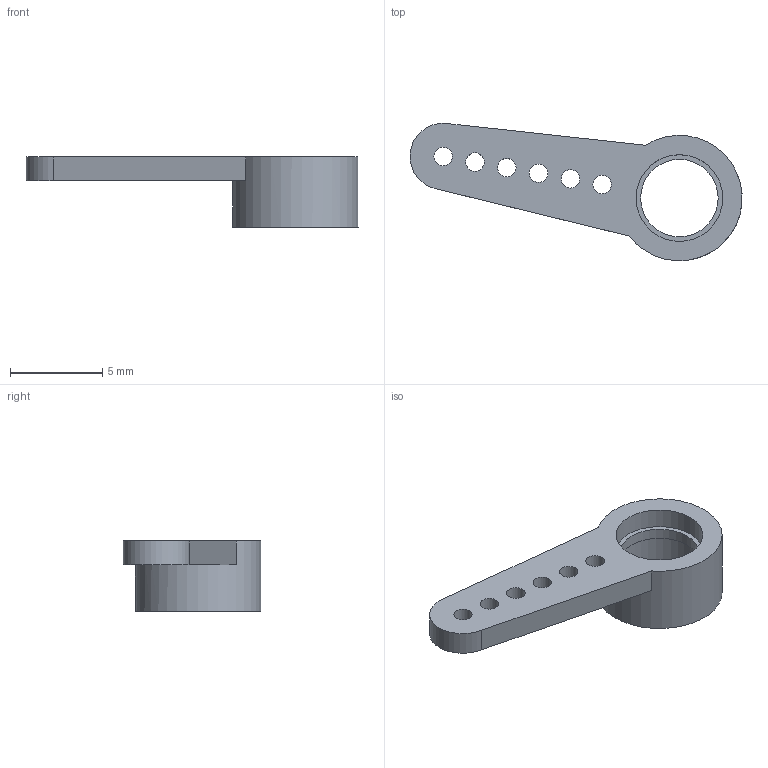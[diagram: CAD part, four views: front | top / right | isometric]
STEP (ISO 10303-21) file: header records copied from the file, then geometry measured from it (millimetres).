
FILE_DESCRIPTION(/* description */ ('STEP AP242 Edition 2','CAx-IF Rec.Pracs.---Representation and Presentation of Product Manufacturing Information (PMI)---4.0---2014-10-13','CAx-IF Rec.Pracs.---3D Tessellated Geometry---0.4---2014-09-14','2;1','CAx-IF Rec.Pracs.---User Defined Attributes---1.5---2016-08-15'),/* implementation_level */ '2;1');
FILE_NAME(/* name */ 'Final Build - SERVO horn',/* time_stamp */ '2026-08-31T23:26:27Z',/* author */ (''),/* organization */ (''),/* preprocessor_version */ 'ST-DEVELOPER v20',/* originating_system */ 'ONSHAPE BY PTC INC, 1.220',/* authorisation */ ' ');
FILE_SCHEMA (('AP242_MANAGED_MODEL_BASED_3D_ENGINEERING_MIM_LF { 1 0 10303 442 3 1 4 }'));
Length unit declared in the file: metre
Products named in the file (1): SERVO horn
Bounding box: 17.99 x 7.45 x 3.8 mm (x, y, z)
Volume: 129.5 mm3; surface area: 318.9 mm2
Topology: 1 solids, 1 shells, 18 faces, 50 edges, 36 vertices
Faces by surface type: cylinder 11, plane 7
Full cylindrical faces by diameter (mm): 1 x6, 4.2 x1, 4.7 x2, 6.8 x1
Entity records: 520 total; most frequent: DIRECTION 92, CARTESIAN_POINT 77, ORIENTED_EDGE 62, EDGE_LOOP 44, FACE_BOUND 44, AXIS2_PLACEMENT_3D 42, EDGE_CURVE 31, VERTEX_POINT 27
